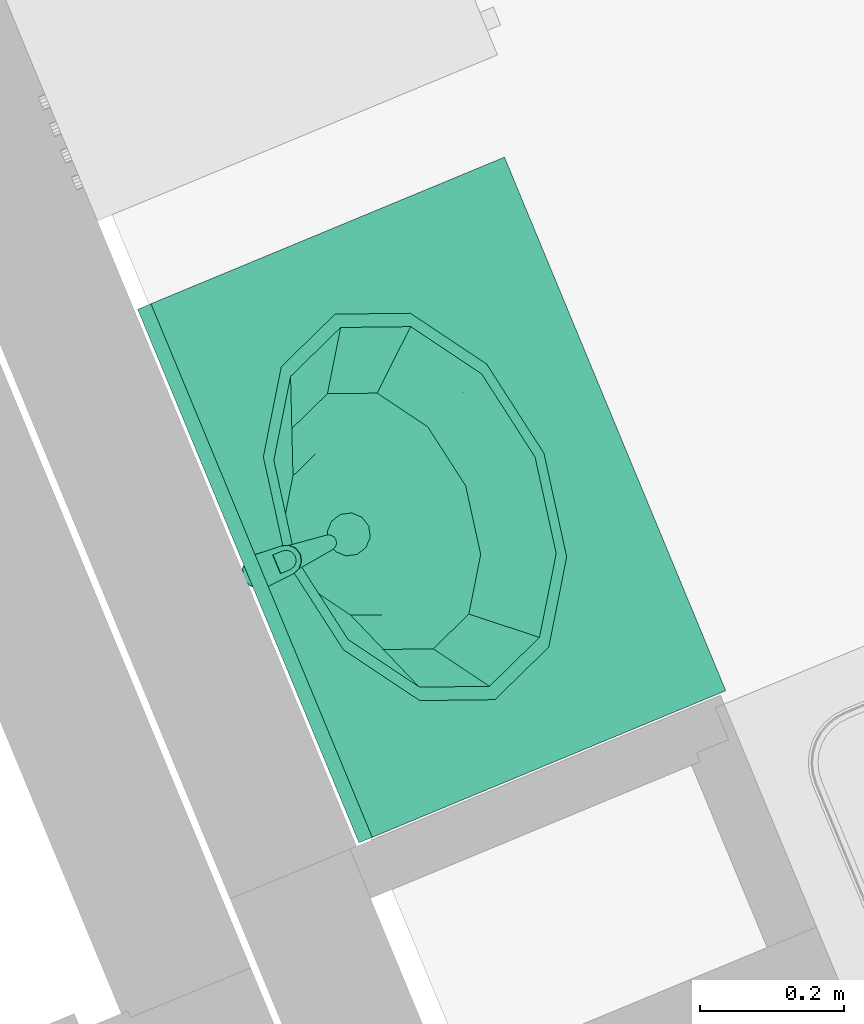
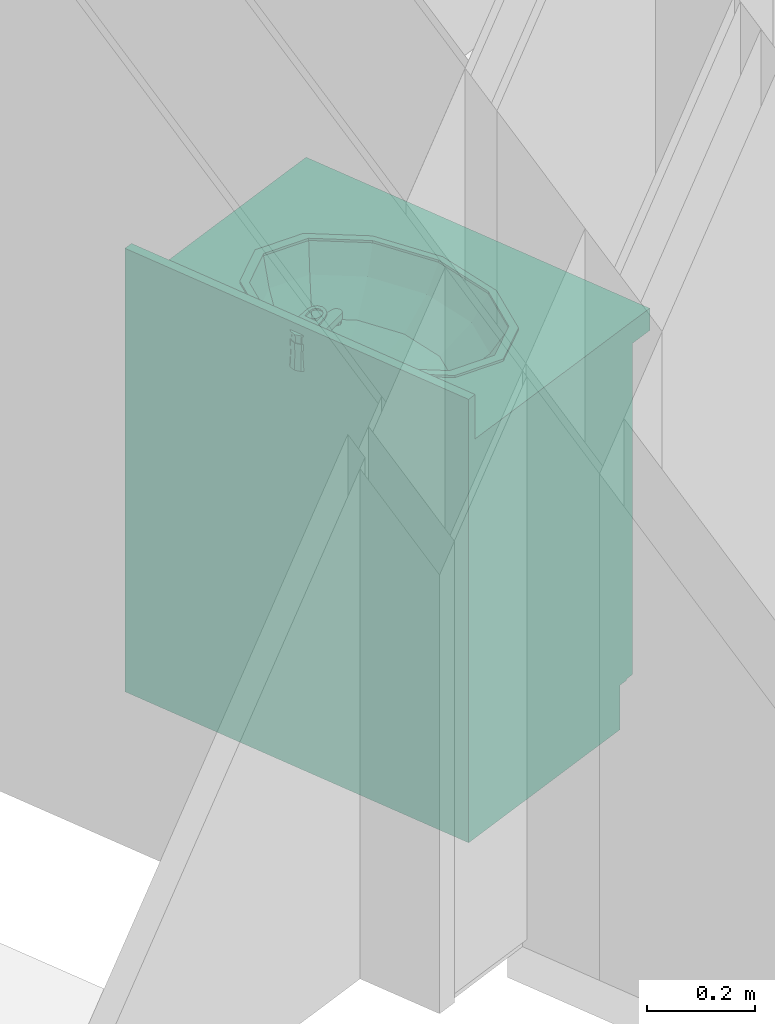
# One storey, part 89 of 119: 1 flow terminal.
"""IFC2X3 building model written with IfcOpenShell, lengths in metres."""

from ifc_helpers import new_model, entity, si_unit, converted_unit, derived_unit, money_unit, direction, frame, origin_with_axes, place, context, subcontext, project, spatial, open_shell, faceted_brep, surface_model, source, transform, mapped, type_object, element, save


model = new_model("IFC2X3")

# Units and contexts
model_context = context("Model", 3, precision=1e-05, world=origin_with_axes(), true_north=direction((0.0, 1.0)))
body_context = subcontext(model_context, "Body", "Model", "MODEL_VIEW")
ifc_project = project(units=[si_unit("LENGTHUNIT", "METRE"), si_unit("AREAUNIT", "SQUARE_METRE"), si_unit("VOLUMEUNIT", "CUBIC_METRE"), converted_unit("PLANEANGLEUNIT", "DEGREE", entity("IfcPlaneAngleMeasure", 0.0174532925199), si_unit("PLANEANGLEUNIT", "RADIAN"), dimensions=[0, 0, 0, 0, 0, 0, 0]), si_unit("SOLIDANGLEUNIT", "STERADIAN"), money_unit("EUR"), converted_unit("TIMEUNIT", "Year", entity("IfcTimeMeasure", 31556926.0), si_unit("TIMEUNIT", "SECOND"), dimensions=[0, 0, 1, 0, 0, 0, 0]), si_unit("MASSUNIT", "GRAM", prefix="KILO"), si_unit("THERMODYNAMICTEMPERATUREUNIT", "DEGREE_CELSIUS"), si_unit("LUMINOUSINTENSITYUNIT", "LUMEN"), si_unit("ENERGYUNIT", "JOULE", prefix="MEGA"), derived_unit("THERMALCONDUCTANCEUNIT", [(si_unit("POWERUNIT", "WATT"), 1), (si_unit("LENGTHUNIT", "METRE"), -1), (si_unit("THERMODYNAMICTEMPERATUREUNIT", "KELVIN"), -1)]), derived_unit("SPECIFICHEATCAPACITYUNIT", [(si_unit("ENERGYUNIT", "JOULE"), 1), (si_unit("MASSUNIT", "GRAM", prefix="KILO"), -1), (si_unit("THERMODYNAMICTEMPERATUREUNIT", "KELVIN"), -1)]), derived_unit("MASSDENSITYUNIT", [(si_unit("MASSUNIT", "GRAM", prefix="KILO"), 1), (si_unit("VOLUMEUNIT", "CUBIC_METRE"), -1)])], contexts=[model_context])

# Site, building, storey
site_placement = place(None, origin_with_axes())
site = spatial("IfcSite", under=ifc_project, at=site_placement, Name="Site", CompositionType="ELEMENT")
building_placement = place(site_placement, origin_with_axes())
building = spatial("IfcBuilding", under=site, at=building_placement, Name="Bâtiment", CompositionType="ELEMENT")
storey_placement = place(building_placement, origin_with_axes())
storey = spatial("IfcBuildingStorey", under=building, at=storey_placement, Name="Rez-de-chaussée", CompositionType="ELEMENT", Elevation=0.0)

# Flow terminal
sanitary_terminal_type = type_object("IfcSanitaryTerminalType", Name="Lavabo sur meuble 23", PredefinedType="NOTDEFINED")
shared_shape = source(origin_with_axes(), body_context, "Body", "SurfaceModel", [
    faceted_brep([(0.0, 0.09, 0.0), (0.8, 0.09, 0.0), (0.8, 0.09, 0.1), (0.0, 0.09, 0.1), (0.0, 0.55, 0.0), (0.8, 0.55, 0.0), (0.8, 0.55, 0.1), (0.0, 0.55, 0.1)], [[[0, 1, 2, 3]], [[0, 4, 5, 1]], [[1, 5, 6, 2]], [[3, 2, 6, 7]], [[4, 0, 3, 7]], [[5, 4, 7, 6]]]),
    faceted_brep([(0.0, 0.07, 0.1), (0.02, 0.07, 0.1), (0.02, 0.07, 0.12), (0.0, 0.07, 0.12), (0.0, 0.55, 0.1), (0.02, 0.55, 0.1), (0.78, 0.55, 0.1), (0.8, 0.55, 0.1), (0.8, 0.07, 0.1), (0.78, 0.07, 0.1), (0.78, 0.07, 0.12), (0.8, 0.07, 0.12), (0.8, 0.55, 0.12), (0.78, 0.55, 0.12), (0.02, 0.55, 0.12), (0.0, 0.55, 0.12)], [[[0, 1, 2, 3]], [[0, 4, 5, 6, 7, 8, 9, 1]], [[1, 9, 10, 2]], [[3, 2, 10, 11, 12, 13, 14, 15]], [[4, 0, 3, 15]], [[5, 4, 15, 14]], [[6, 5, 14, 13]], [[7, 6, 13, 12]], [[8, 7, 12, 11]], [[9, 8, 11, 10]]]),
    faceted_brep([(0.0, 0.07, 0.12), (0.02, 0.07, 0.12), (0.02, 0.07, 0.85), (0.0, 0.07, 0.85), (0.0, 0.55, 0.12), (0.8, 0.55, 0.12), (0.8, 0.07, 0.12), (0.78, 0.07, 0.12), (0.78, 0.53, 0.12), (0.02, 0.53, 0.12), (0.02, 0.53, 0.85), (0.78, 0.53, 0.85), (0.78, 0.07, 0.85), (0.8, 0.07, 0.85), (0.8, 0.55, 0.85), (0.0, 0.55, 0.85)], [[[0, 1, 2, 3]], [[0, 4, 5, 6, 7, 8, 9, 1]], [[1, 9, 10, 2]], [[3, 2, 10, 11, 12, 13, 14, 15]], [[4, 0, 3, 15]], [[5, 4, 15, 14]], [[6, 5, 14, 13]], [[7, 6, 13, 12]], [[8, 7, 12, 11]], [[9, 8, 11, 10]]]),
    faceted_brep([(0.78, 0.07, 0.323333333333), (0.78, 0.53, 0.323333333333), (0.78, 0.53, 0.343333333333), (0.78, 0.07, 0.343333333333), (0.02, 0.07, 0.323333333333), (0.02, 0.53, 0.323333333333), (0.02, 0.53, 0.343333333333), (0.02, 0.07, 0.343333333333)], [[[0, 1, 2, 3]], [[0, 4, 5, 1]], [[1, 5, 6, 2]], [[3, 2, 6, 7]], [[4, 0, 3, 7]], [[5, 4, 7, 6]]]),
    faceted_brep([(0.78, 0.07, 0.566666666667), (0.78, 0.53, 0.566666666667), (0.78, 0.53, 0.586666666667), (0.78, 0.07, 0.586666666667), (0.02, 0.07, 0.566666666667), (0.02, 0.53, 0.566666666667), (0.02, 0.53, 0.586666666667), (0.02, 0.07, 0.586666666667)], [[[0, 1, 2, 3]], [[0, 4, 5, 1]], [[1, 5, 6, 2]], [[3, 2, 6, 7]], [[4, 0, 3, 7]], [[5, 4, 7, 6]]]),
    faceted_brep([(0.0, 0.55, 0.85), (0.8, 0.55, 0.85), (0.8, 0.0, 0.85), (0.0, 0.0, 0.85), (0.535, 0.144115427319, 0.85), (0.633826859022, 0.21, 0.85), (0.67, 0.3, 0.85), (0.633826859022, 0.39, 0.85), (0.535, 0.455884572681, 0.85), (0.4, 0.48, 0.85), (0.265, 0.455884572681, 0.85), (0.166173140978, 0.39, 0.85), (0.13, 0.3, 0.85), (0.166173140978, 0.21, 0.85), (0.265, 0.144115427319, 0.85), (0.4, 0.12, 0.85), (0.0, 0.55, 0.9), (0.8, 0.55, 0.9), (0.8, 0.0, 0.9), (0.0, 0.0, 0.9), (0.535, 0.144115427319, 0.9), (0.633826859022, 0.21, 0.9), (0.67, 0.3, 0.9), (0.633826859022, 0.39, 0.9), (0.535, 0.455884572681, 0.9), (0.4, 0.48, 0.9), (0.265, 0.455884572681, 0.9), (0.166173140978, 0.39, 0.9), (0.13, 0.3, 0.9), (0.166173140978, 0.21, 0.9), (0.265, 0.144115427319, 0.9), (0.4, 0.12, 0.9)], [[[0, 1, 2, 3], [4, 5, 6, 7, 8, 9, 10, 11, 12, 13, 14, 15]], [[0, 16, 17, 1]], [[1, 17, 18, 2]], [[2, 18, 19, 3]], [[3, 19, 16, 0]], [[20, 21, 5, 4]], [[21, 22, 6, 5]], [[22, 23, 7, 6]], [[23, 24, 8, 7]], [[24, 25, 9, 8]], [[25, 26, 10, 9]], [[26, 27, 11, 10]], [[27, 28, 12, 11]], [[28, 29, 13, 12]], [[29, 30, 14, 13]], [[30, 31, 15, 14]], [[31, 20, 4, 15]], [[18, 17, 16, 19], [24, 23, 22, 21, 20, 31, 30, 29, 28, 27, 26, 25]]]),
    faceted_brep([(0.0, 0.53, 0.9), (0.8, 0.53, 0.9), (0.8, 0.53, 1.0), (0.0, 0.53, 1.0), (0.0, 0.55, 0.9), (0.8, 0.55, 0.9), (0.8, 0.55, 1.0), (0.0, 0.55, 1.0)], [[[0, 1, 2, 3]], [[0, 4, 5, 1]], [[1, 5, 6, 2]], [[3, 2, 6, 7]], [[4, 0, 3, 7]], [[5, 4, 7, 6]]]),
    faceted_brep([(0.689, 0.3, 0.905), (0.689, 0.3, 0.9), (0.650281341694, 0.396691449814, 0.9), (0.650281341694, 0.396691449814, 0.905), (0.650281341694, 0.203308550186, 0.905), (0.650281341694, 0.203308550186, 0.9), (0.5445, 0.132525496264, 0.9), (0.4, 0.106617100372, 0.9), (0.2555, 0.132525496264, 0.9), (0.149718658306, 0.203308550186, 0.9), (0.111, 0.3, 0.9), (0.149718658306, 0.396691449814, 0.9), (0.2555, 0.467474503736, 0.9), (0.4, 0.493382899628, 0.9), (0.5445, 0.467474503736, 0.9), (0.669, 0.3, 0.9), (0.632960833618, 0.39, 0.9), (0.5345, 0.455884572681, 0.9), (0.4, 0.48, 0.9), (0.2655, 0.455884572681, 0.9), (0.167039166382, 0.39, 0.9), (0.131, 0.3, 0.9), (0.167039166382, 0.21, 0.9), (0.2655, 0.144115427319, 0.9), (0.4, 0.12, 0.9), (0.5345, 0.144115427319, 0.9), (0.632960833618, 0.21, 0.9), (0.5445, 0.467474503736, 0.905), (0.4, 0.493382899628, 0.905), (0.2555, 0.467474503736, 0.905), (0.149718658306, 0.396691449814, 0.905), (0.111, 0.3, 0.905), (0.149718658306, 0.203308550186, 0.905), (0.2555, 0.132525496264, 0.905), (0.4, 0.106617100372, 0.905), (0.5445, 0.132525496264, 0.905), (0.669, 0.3, 0.905), (0.632960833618, 0.21, 0.905), (0.5345, 0.144115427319, 0.905), (0.4, 0.12, 0.905), (0.2655, 0.144115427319, 0.905), (0.167039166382, 0.21, 0.905), (0.131, 0.3, 0.905), (0.167039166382, 0.39, 0.905), (0.2655, 0.455884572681, 0.905), (0.4, 0.48, 0.905), (0.5345, 0.455884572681, 0.905), (0.632960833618, 0.39, 0.905)], [[[0, 1, 2, 3]], [[4, 5, 1, 0]], [[1, 5, 6, 7, 8, 9, 10, 11, 12, 13, 14, 2], [15, 16, 17, 18, 19, 20, 21, 22, 23, 24, 25, 26]], [[3, 2, 14, 27]], [[0, 3, 27, 28, 29, 30, 31, 32, 33, 34, 35, 4], [36, 37, 38, 39, 40, 41, 42, 43, 44, 45, 46, 47]], [[35, 6, 5, 4]], [[34, 7, 6, 35]], [[33, 8, 7, 34]], [[32, 9, 8, 33]], [[31, 10, 9, 32]], [[30, 11, 10, 31]], [[29, 12, 11, 30]], [[28, 13, 12, 29]], [[27, 14, 13, 28]], [[47, 16, 15, 36]], [[46, 17, 16, 47]], [[45, 18, 17, 46]], [[44, 19, 18, 45]], [[43, 20, 19, 44]], [[42, 21, 20, 43]], [[41, 22, 21, 42]], [[40, 23, 22, 41]], [[39, 24, 23, 40]], [[38, 25, 24, 39]], [[37, 26, 25, 38]], [[36, 15, 26, 37]]]),
    surface_model("IfcShellBasedSurfaceModel", [(0.4, 0.48, 0.9), (0.4, 0.48, 0.848), (0.52105, 0.458296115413, 0.848), (0.5345, 0.455884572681, 0.9), (0.2655, 0.455884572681, 0.9), (0.27895, 0.458296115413, 0.848), (0.609664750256, 0.399, 0.848), (0.632960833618, 0.39, 0.9), (0.167039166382, 0.39, 0.9), (0.190335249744, 0.399, 0.848), (0.6421, 0.318, 0.848), (0.669, 0.3, 0.9), (0.131, 0.3, 0.9), (0.1579, 0.318, 0.848), (0.609664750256, 0.237, 0.848), (0.632960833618, 0.21, 0.9), (0.167039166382, 0.21, 0.9), (0.190335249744, 0.237, 0.848), (0.52105, 0.177703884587, 0.848), (0.5345, 0.144115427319, 0.9), (0.2655, 0.144115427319, 0.9), (0.27895, 0.177703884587, 0.848), (0.4, 0.156, 0.848), (0.4, 0.12, 0.9)], [open_shell([[[0, 1, 2, 3]], [[4, 5, 1, 0]], [[3, 2, 6, 7]], [[8, 9, 5, 4]], [[7, 6, 10, 11]], [[12, 13, 9, 8]], [[11, 10, 14, 15]], [[16, 17, 13, 12]], [[15, 14, 18, 19]], [[20, 21, 17, 16]], [[19, 18, 22, 23]], [[23, 22, 21, 20]]])]),
    surface_model("IfcShellBasedSurfaceModel", [(0.4, 0.48, 0.848), (0.4, 0.48, 0.796), (0.4956295, 0.462853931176, 0.796), (0.52105, 0.458296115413, 0.848), (0.27895, 0.458296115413, 0.848), (0.3043705, 0.462853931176, 0.796), (0.565635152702, 0.41601, 0.796), (0.609664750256, 0.399, 0.848), (0.190335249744, 0.399, 0.848), (0.234364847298, 0.41601, 0.796), (0.591259, 0.35202, 0.796), (0.6421, 0.318, 0.848), (0.1579, 0.318, 0.848), (0.208741, 0.35202, 0.796), (0.565635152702, 0.28803, 0.796), (0.609664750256, 0.237, 0.848), (0.190335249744, 0.237, 0.848), (0.234364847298, 0.28803, 0.796), (0.4956295, 0.241186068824, 0.796), (0.52105, 0.177703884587, 0.848), (0.27895, 0.177703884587, 0.848), (0.3043705, 0.241186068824, 0.796), (0.4, 0.22404, 0.796), (0.4, 0.156, 0.848)], [open_shell([[[0, 1, 2, 3]], [[4, 5, 1, 0]], [[3, 2, 6, 7]], [[8, 9, 5, 4]], [[7, 6, 10, 11]], [[12, 13, 9, 8]], [[11, 10, 14, 15]], [[16, 17, 13, 12]], [[15, 14, 18, 19]], [[20, 21, 17, 16]], [[19, 18, 22, 23]], [[23, 22, 21, 20]]])]),
    surface_model("IfcShellBasedSurfaceModel", [(0.4, 0.48, 0.796), (0.4, 0.48, 0.77), (0.460246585, 0.469197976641, 0.77), (0.4956295, 0.462853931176, 0.796), (0.3043705, 0.462853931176, 0.796), (0.339753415, 0.469197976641, 0.77), (0.504350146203, 0.4396863, 0.77), (0.565635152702, 0.41601, 0.796), (0.234364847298, 0.41601, 0.796), (0.295649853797, 0.4396863, 0.77), (0.52049317, 0.3993726, 0.77), (0.591259, 0.35202, 0.796), (0.208741, 0.35202, 0.796), (0.27950683, 0.3993726, 0.77), (0.504350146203, 0.3590589, 0.77), (0.565635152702, 0.28803, 0.796), (0.234364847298, 0.28803, 0.796), (0.295649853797, 0.3590589, 0.77), (0.460246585, 0.329547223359, 0.77), (0.4956295, 0.241186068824, 0.796), (0.3043705, 0.241186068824, 0.796), (0.339753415, 0.329547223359, 0.77), (0.4, 0.3187452, 0.77), (0.4, 0.22404, 0.796)], [open_shell([[[0, 1, 2, 3]], [[4, 5, 1, 0]], [[3, 2, 6, 7]], [[8, 9, 5, 4]], [[7, 6, 10, 11]], [[12, 13, 9, 8]], [[11, 10, 14, 15]], [[16, 17, 13, 12]], [[15, 14, 18, 19]], [[20, 21, 17, 16]], [[19, 18, 22, 23]], [[23, 22, 21, 20]]])]),
    surface_model("IfcShellBasedSurfaceModel", [(0.4, 0.48, 0.77), (0.415, 0.425353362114, 0.763), (0.460246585, 0.469197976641, 0.77), (0.4, 0.4293726, 0.763), (0.425980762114, 0.4143726, 0.763), (0.339753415, 0.469197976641, 0.77), (0.504350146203, 0.4396863, 0.77), (0.385, 0.425353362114, 0.763), (0.43, 0.3993726, 0.763), (0.295649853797, 0.4396863, 0.77), (0.52049317, 0.3993726, 0.77), (0.374019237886, 0.4143726, 0.763), (0.425980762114, 0.3843726, 0.763), (0.27950683, 0.3993726, 0.77), (0.504350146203, 0.3590589, 0.77), (0.37, 0.3993726, 0.763), (0.415, 0.373391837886, 0.763), (0.295649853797, 0.3590589, 0.77), (0.460246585, 0.329547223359, 0.77), (0.374019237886, 0.3843726, 0.763), (0.4, 0.3693726, 0.763), (0.339753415, 0.329547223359, 0.77), (0.4, 0.3187452, 0.77), (0.385, 0.373391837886, 0.763)], [open_shell([[[0, 1, 2]], [[0, 3, 1]], [[2, 1, 4]], [[5, 3, 0]], [[2, 4, 6]], [[5, 7, 3]], [[6, 4, 8]], [[9, 7, 5]], [[6, 8, 10]], [[9, 11, 7]], [[10, 8, 12]], [[13, 11, 9]], [[10, 12, 14]], [[13, 15, 11]], [[14, 12, 16]], [[17, 15, 13]], [[14, 16, 18]], [[17, 19, 15]], [[18, 16, 20]], [[21, 19, 17]], [[18, 20, 22]], [[21, 23, 19]], [[22, 20, 23]], [[22, 23, 21]]])]),
    surface_model("IfcShellBasedSurfaceModel", [(0.43, 0.3993726, 0.763), (0.43, 0.3993726, 0.758), (0.425980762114, 0.4143726, 0.758), (0.425980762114, 0.4143726, 0.763), (0.425980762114, 0.3843726, 0.763), (0.425980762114, 0.3843726, 0.758), (0.415, 0.373391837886, 0.758), (0.4, 0.3693726, 0.758), (0.385, 0.373391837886, 0.758), (0.374019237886, 0.3843726, 0.758), (0.37, 0.3993726, 0.758), (0.374019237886, 0.4143726, 0.758), (0.385, 0.425353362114, 0.758), (0.4, 0.4293726, 0.758), (0.415, 0.425353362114, 0.758), (0.415, 0.425353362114, 0.763), (0.415, 0.373391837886, 0.763), (0.4, 0.3693726, 0.763), (0.385, 0.373391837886, 0.763), (0.374019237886, 0.3843726, 0.763), (0.37, 0.3993726, 0.763), (0.374019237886, 0.4143726, 0.763), (0.385, 0.425353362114, 0.763), (0.4, 0.4293726, 0.763)], [open_shell([[[0, 1, 2, 3]], [[4, 5, 1, 0]], [[1, 5, 6, 7, 8, 9, 10, 11, 12, 13, 14, 2]], [[3, 2, 14, 15]], [[16, 6, 5, 4]], [[17, 7, 6, 16]], [[18, 8, 7, 17]], [[19, 9, 8, 18]], [[20, 10, 9, 19]], [[21, 11, 10, 20]], [[22, 12, 11, 21]], [[23, 13, 12, 22]], [[15, 14, 13, 23]]])]),
    faceted_brep([(0.4125, 0.554150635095, 0.9), (0.4, 0.5575, 0.9), (0.4, 0.553701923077, 0.975961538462), (0.410587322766, 0.550837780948, 0.976507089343), (0.421650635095, 0.545, 0.9), (0.425, 0.5325, 0.9), (0.421650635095, 0.52, 0.9), (0.4125, 0.510849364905, 0.9), (0.4, 0.5075, 0.9), (0.3875, 0.510849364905, 0.9), (0.378349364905, 0.52, 0.9), (0.375, 0.5325, 0.9), (0.378349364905, 0.545, 0.9), (0.3875, 0.554150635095, 0.9), (0.389412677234, 0.550837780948, 0.976507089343), (0.381726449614, 0.543050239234, 0.977990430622), (0.379, 0.5325, 0.98), (0.381899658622, 0.522049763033, 0.981990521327), (0.389585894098, 0.514462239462, 0.983435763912), (0.4, 0.511698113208, 0.983962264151), (0.410414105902, 0.514462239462, 0.983435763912), (0.418100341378, 0.522049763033, 0.981990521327), (0.421, 0.5325, 0.98), (0.418273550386, 0.543050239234, 0.977990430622)], [[[0, 1, 2, 3]], [[0, 4, 5, 6, 7, 8, 9, 10, 11, 12, 13, 1]], [[1, 13, 14, 2]], [[3, 2, 14, 15, 16, 17, 18, 19, 20, 21, 22, 23]], [[4, 0, 3, 23]], [[5, 4, 23, 22]], [[6, 5, 22, 21]], [[7, 6, 21, 20]], [[8, 7, 20, 19]], [[9, 8, 19, 18]], [[10, 9, 18, 17]], [[11, 10, 17, 16]], [[12, 11, 16, 15]], [[13, 12, 15, 14]]]),
    faceted_brep([(0.409, 0.4295, 0.935), (0.407794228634, 0.434, 0.935), (0.407794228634, 0.434, 0.945), (0.409, 0.4295, 0.945), (0.407794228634, 0.425, 0.935), (0.4045, 0.421705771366, 0.935), (0.4, 0.4205, 0.935), (0.3955, 0.421705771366, 0.935), (0.392205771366, 0.425, 0.935), (0.391, 0.4295, 0.935), (0.392205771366, 0.434, 0.935), (0.3955, 0.437294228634, 0.935), (0.4, 0.4385, 0.935), (0.4045, 0.437294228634, 0.935), (0.4045, 0.437294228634, 0.945), (0.4, 0.4385, 0.945), (0.3955, 0.437294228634, 0.945), (0.392205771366, 0.434, 0.945), (0.391, 0.4295, 0.945), (0.392205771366, 0.425, 0.945), (0.3955, 0.421705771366, 0.945), (0.4, 0.4205, 0.945), (0.4045, 0.421705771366, 0.945), (0.407794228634, 0.425, 0.945)], [[[0, 1, 2, 3]], [[0, 4, 5, 6, 7, 8, 9, 10, 11, 12, 13, 1]], [[1, 13, 14, 2]], [[3, 2, 14, 15, 16, 17, 18, 19, 20, 21, 22, 23]], [[4, 0, 3, 23]], [[5, 4, 23, 22]], [[6, 5, 22, 21]], [[7, 6, 21, 20]], [[8, 7, 20, 19]], [[9, 8, 19, 18]], [[10, 9, 18, 17]], [[11, 10, 17, 16]], [[12, 11, 16, 15]], [[13, 12, 15, 14]]]),
    faceted_brep([(0.387128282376, 0.552756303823, 0.96), (0.378272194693, 0.54269320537, 0.96), (0.3761946, 0.5294501, 0.96), (0.389088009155, 0.428111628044, 0.96), (0.390971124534, 0.423216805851, 0.96), (0.394906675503, 0.419750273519, 0.96), (0.400000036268, 0.41850003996, 0.96), (0.405093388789, 0.419750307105, 0.96), (0.409028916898, 0.423216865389, 0.96), (0.410912, 0.4281117, 0.96), (0.423805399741, 0.529450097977, 0.96), (0.421727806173, 0.542693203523, 0.96), (0.412871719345, 0.552756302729, 0.96), (0.40000000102, 0.556499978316, 0.96), (0.411, 0.551552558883, 0.96), (0.419052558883, 0.5435, 0.96), (0.422, 0.5325, 0.96), (0.419052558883, 0.5215, 0.96), (0.411, 0.513447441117, 0.96), (0.4, 0.5105, 0.96), (0.389, 0.513447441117, 0.96), (0.380947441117, 0.5215, 0.96), (0.378, 0.5325, 0.96), (0.380947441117, 0.5435, 0.96), (0.389, 0.551552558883, 0.96), (0.4, 0.5545, 0.96), (0.378272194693, 0.54269320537, 0.945), (0.387128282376, 0.552756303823, 0.945), (0.3761946, 0.5294501, 0.945), (0.389088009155, 0.428111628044, 0.945), (0.390971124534, 0.423216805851, 0.945), (0.394906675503, 0.419750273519, 0.945), (0.400000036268, 0.41850003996, 0.945), (0.405093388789, 0.419750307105, 0.945), (0.409028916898, 0.423216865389, 0.945), (0.410912, 0.4281117, 0.945), (0.423805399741, 0.529450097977, 0.945), (0.421727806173, 0.542693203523, 0.945), (0.412871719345, 0.552756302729, 0.945), (0.40000000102, 0.556499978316, 0.945), (0.411375, 0.552202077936, 0.945), (0.419702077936, 0.543875, 0.945), (0.42275, 0.5325, 0.945), (0.419702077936, 0.521125, 0.945), (0.411375, 0.512797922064, 0.945), (0.4, 0.50975, 0.945), (0.388625, 0.512797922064, 0.945), (0.380297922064, 0.521125, 0.945), (0.37725, 0.5325, 0.945), (0.380297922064, 0.543875, 0.945), (0.388625, 0.552202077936, 0.945), (0.4, 0.55525, 0.945)], [[[0, 1, 2, 3, 4, 5, 6, 7, 8, 9, 10, 11, 12, 13], [14, 15, 16, 17, 18, 19, 20, 21, 22, 23, 24, 25]], [[26, 1, 0, 27]], [[28, 2, 1, 26]], [[29, 3, 2, 28]], [[30, 4, 3, 29]], [[31, 5, 4, 30]], [[32, 6, 5, 31]], [[33, 7, 6, 32]], [[34, 8, 7, 33]], [[35, 9, 8, 34]], [[36, 10, 9, 35]], [[37, 11, 10, 36]], [[38, 12, 11, 37]], [[39, 13, 12, 38]], [[27, 0, 13, 39]], [[40, 41, 15, 14]], [[41, 42, 16, 15]], [[42, 43, 17, 16]], [[43, 44, 18, 17]], [[44, 45, 19, 18]], [[20, 19, 45, 46]], [[21, 20, 46, 47]], [[22, 21, 47, 48]], [[23, 22, 48, 49]], [[24, 23, 49, 50]], [[50, 51, 25, 24]], [[51, 40, 14, 25]], [[32, 31, 30, 29, 28, 26, 27, 39, 38, 37, 36, 35, 34, 33], [44, 43, 42, 41, 40, 51, 50, 49, 48, 47, 46, 45]]]),
    faceted_brep([(0.423893, 0.53080743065, 0.980322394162), (0.421296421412, 0.543274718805, 0.977947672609), (0.421296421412, 0.544023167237, 0.981877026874), (0.423893, 0.531555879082, 0.984251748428), (0.420945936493, 0.490663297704, 0.987968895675), (0.417663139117, 0.480985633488, 0.989812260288), (0.410061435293, 0.474036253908, 0.991135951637), (0.399999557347, 0.47151438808, 0.991616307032), (0.389937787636, 0.474036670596, 0.991135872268), (0.382336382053, 0.480986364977, 0.989812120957), (0.379054, 0.490664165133, 0.987968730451), (0.376106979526, 0.530807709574, 0.980322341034), (0.378703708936, 0.543274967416, 0.977947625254), (0.38752831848, 0.552591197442, 0.976173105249), (0.400000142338, 0.556031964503, 0.975517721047), (0.41247192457, 0.552591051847, 0.976173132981), (0.414, 0.506959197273, 0.984864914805), (0.386, 0.506959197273, 0.984864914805), (0.386, 0.492143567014, 0.987686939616), (0.387875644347, 0.485267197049, 0.988996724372), (0.393, 0.480233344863, 0.989955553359), (0.4, 0.478390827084, 0.990306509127), (0.407, 0.480233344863, 0.989955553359), (0.412124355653, 0.485267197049, 0.988996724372), (0.414, 0.492143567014, 0.987686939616), (0.41247192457, 0.553339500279, 0.980102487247), (0.400000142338, 0.556780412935, 0.979447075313), (0.38752831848, 0.553339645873, 0.980102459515), (0.378703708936, 0.544023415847, 0.98187697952), (0.376106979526, 0.531556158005, 0.984251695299), (0.379054, 0.491412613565, 0.991898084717), (0.382336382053, 0.481734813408, 0.993741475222), (0.389937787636, 0.474785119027, 0.995065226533), (0.399999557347, 0.472262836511, 0.995545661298), (0.410061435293, 0.47478470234, 0.995065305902), (0.417663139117, 0.48173408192, 0.993741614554), (0.420945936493, 0.491411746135, 0.991898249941), (0.414, 0.507707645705, 0.988794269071), (0.414, 0.492892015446, 0.991616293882), (0.412124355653, 0.486015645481, 0.992926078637), (0.407, 0.480981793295, 0.993884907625), (0.4, 0.479139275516, 0.994235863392), (0.393, 0.480981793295, 0.993884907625), (0.387875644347, 0.486015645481, 0.992926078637), (0.386, 0.492892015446, 0.991616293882), (0.386, 0.507707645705, 0.988794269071)], [[[0, 1, 2, 3]], [[0, 4, 5, 6, 7, 8, 9, 10, 11, 12, 13, 14, 15, 1], [16, 17, 18, 19, 20, 21, 22, 23, 24]], [[1, 15, 25, 2]], [[3, 2, 25, 26, 27, 28, 29, 30, 31, 32, 33, 34, 35, 36], [37, 38, 39, 40, 41, 42, 43, 44, 45]], [[4, 0, 3, 36]], [[5, 4, 36, 35]], [[6, 5, 35, 34]], [[7, 6, 34, 33]], [[8, 7, 33, 32]], [[9, 8, 32, 31]], [[10, 9, 31, 30]], [[11, 10, 30, 29]], [[12, 11, 29, 28]], [[13, 12, 28, 27]], [[14, 13, 27, 26]], [[15, 14, 26, 25]], [[17, 16, 37, 45]], [[18, 17, 45, 44]], [[19, 18, 44, 43]], [[20, 19, 43, 42]], [[21, 20, 42, 41]], [[22, 21, 41, 40]], [[23, 22, 40, 39]], [[24, 23, 39, 38]], [[16, 24, 38, 37]]]),
    faceted_brep([(0.0015, 0.07, 0.1015), (0.3985, 0.07, 0.1015), (0.3985, 0.05, 0.1015), (0.0015, 0.05, 0.1015), (0.0015, 0.07, 0.8485), (0.3985, 0.07, 0.8485), (0.3985, 0.05, 0.8485), (0.0015, 0.05, 0.8485)], [[[0, 1, 2, 3]], [[0, 4, 5, 1]], [[1, 5, 6, 2]], [[3, 2, 6, 7]], [[4, 0, 3, 7]], [[5, 4, 7, 6]]]),
    faceted_brep([(0.358892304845, 0.05, 0.7855), (0.3545, 0.05, 0.781107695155), (0.3485, 0.05, 0.7795), (0.3425, 0.05, 0.781107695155), (0.338107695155, 0.05, 0.7855), (0.3365, 0.05, 0.7915), (0.338107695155, 0.05, 0.7975), (0.3425, 0.05, 0.801892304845), (0.3485, 0.05, 0.8035), (0.3545, 0.05, 0.801892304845), (0.358892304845, 0.05, 0.7975), (0.3605, 0.05, 0.7915), (0.358892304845, 0.025, 0.7855), (0.3545, 0.025, 0.781107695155), (0.3485, 0.025, 0.7795), (0.3425, 0.025, 0.781107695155), (0.338107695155, 0.025, 0.7855), (0.3365, 0.025, 0.7915), (0.338107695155, 0.025, 0.7975), (0.3425, 0.025, 0.801892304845), (0.3485, 0.025, 0.8035), (0.3545, 0.025, 0.801892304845), (0.358892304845, 0.025, 0.7975), (0.3605, 0.025, 0.7915)], [[[0, 1, 2, 3, 4, 5, 6, 7, 8, 9, 10, 11]], [[1, 0, 12, 13]], [[2, 1, 13, 14]], [[3, 2, 14, 15]], [[4, 3, 15, 16]], [[5, 4, 16, 17]], [[6, 5, 17, 18]], [[7, 6, 18, 19]], [[8, 7, 19, 20]], [[9, 8, 20, 21]], [[10, 9, 21, 22]], [[11, 10, 22, 23]], [[0, 11, 23, 12]], [[12, 23, 22, 21, 20, 19, 18, 17, 16, 15, 14, 13]]]),
    faceted_brep([(0.7985, 0.07, 0.1015), (0.7985, 0.05, 0.1015), (0.4015, 0.05, 0.1015), (0.4015, 0.07, 0.1015), (0.7985, 0.07, 0.8485), (0.7985, 0.05, 0.8485), (0.4015, 0.05, 0.8485), (0.4015, 0.07, 0.8485)], [[[0, 1, 2, 3]], [[4, 5, 1, 0]], [[1, 5, 6, 2]], [[3, 2, 6, 7]], [[0, 3, 7, 4]], [[7, 6, 5, 4]]]),
    faceted_brep([(0.441107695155, 0.05, 0.7855), (0.4395, 0.05, 0.7915), (0.441107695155, 0.05, 0.7975), (0.4455, 0.05, 0.801892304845), (0.4515, 0.05, 0.8035), (0.4575, 0.05, 0.801892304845), (0.461892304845, 0.05, 0.7975), (0.4635, 0.05, 0.7915), (0.461892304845, 0.05, 0.7855), (0.4575, 0.05, 0.781107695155), (0.4515, 0.05, 0.7795), (0.4455, 0.05, 0.781107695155), (0.441107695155, 0.025, 0.7855), (0.4395, 0.025, 0.7915), (0.441107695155, 0.025, 0.7975), (0.4455, 0.025, 0.801892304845), (0.4515, 0.025, 0.8035), (0.4575, 0.025, 0.801892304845), (0.461892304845, 0.025, 0.7975), (0.4635, 0.025, 0.7915), (0.461892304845, 0.025, 0.7855), (0.4575, 0.025, 0.781107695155), (0.4515, 0.025, 0.7795), (0.4455, 0.025, 0.781107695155)], [[[0, 1, 2, 3, 4, 5, 6, 7, 8, 9, 10, 11]], [[0, 12, 13, 1]], [[1, 13, 14, 2]], [[2, 14, 15, 3]], [[3, 15, 16, 4]], [[4, 16, 17, 5]], [[5, 17, 18, 6]], [[6, 18, 19, 7]], [[7, 19, 20, 8]], [[8, 20, 21, 9]], [[9, 21, 22, 10]], [[10, 22, 23, 11]], [[11, 23, 12, 0]], [[12, 23, 22, 21, 20, 19, 18, 17, 16, 15, 14, 13]]]),
])
flow_terminal_placement = place(storey_placement, frame((-22.9003043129, -19.6323297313, 0.0), z_axis=(0.0, 0.0, 1.0), x_axis=(-0.383112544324, 0.923701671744, 0.0)))
element("IfcFlowTerminal", 1, at=flow_terminal_placement, inside=storey, type_object=sanitary_terminal_type, Name="MOB-002", ObjectType="SANITARY_TERMINAL", context=body_context, shape_type="MappedRepresentation", body=[
    mapped(shared_shape, transform((0.0, 0.0, 0.0))),
])

save(model, "model.ifc")
